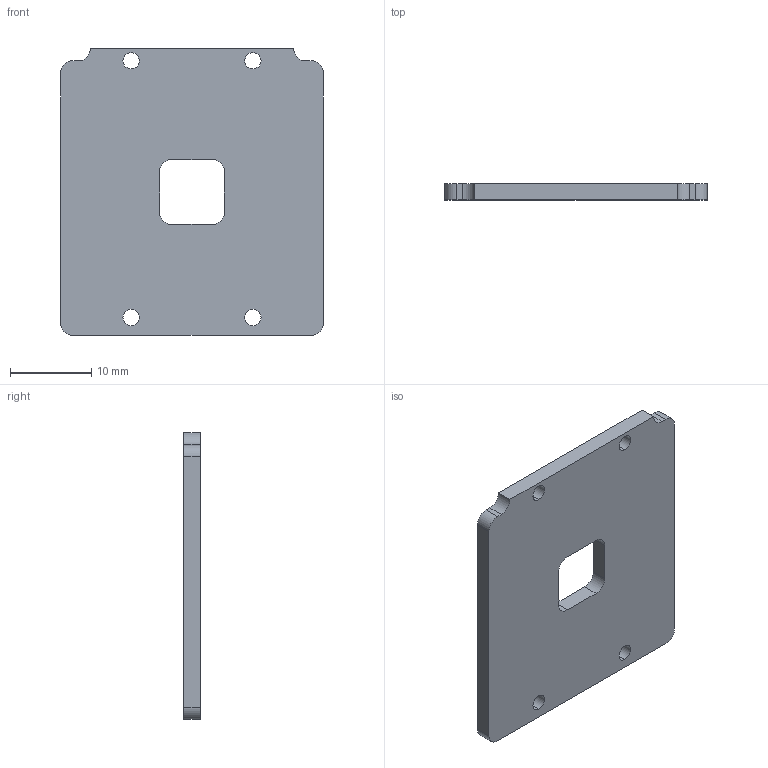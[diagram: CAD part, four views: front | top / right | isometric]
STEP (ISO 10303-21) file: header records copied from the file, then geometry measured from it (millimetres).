
FILE_DESCRIPTION (( 'STEP AP214' ), '1' );
FILE_NAME ('LSQF-XX-033-1-DIFFUSER.STEP', '2021-11-05T02:04:26', ( '' ), ( '' ), 'SwSTEP 2.0', 'SolidWorks 2021', '' );
FILE_SCHEMA (( 'AUTOMOTIVE_DESIGN' ));
Length unit declared in the file: millimetre
Products named in the file (1): LSQF-XX-033-1-DIFFUSER
Bounding box: 32.3 x 2 x 35.3 mm (x, y, z)
Volume: 2107.3 mm3; surface area: 2479.1 mm2
Topology: 1 solids, 1 shells, 30 faces, 84 edges, 56 vertices
Faces by surface type: cylinder 18, plane 12
Entity records: 1038 total; most frequent: DIRECTION 182, CARTESIAN_POINT 171, ORIENTED_EDGE 168, EDGE_CURVE 84, AXIS2_PLACEMENT_3D 67, VERTEX_POINT 56, VECTOR 48, LINE 48
